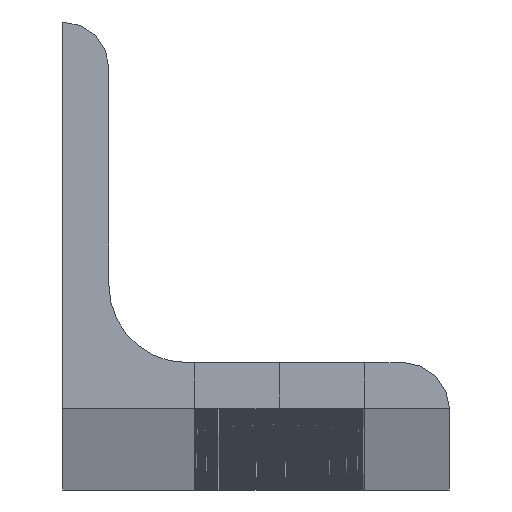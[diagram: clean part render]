
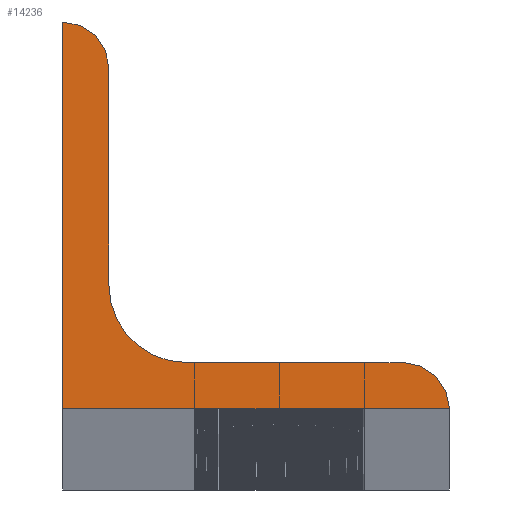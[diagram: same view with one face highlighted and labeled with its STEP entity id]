
A CAD part, top view. The second image highlights one B-rep face of the part: STEP entity #14236.
In plain terms, the highlighted planar face has unit normal (0, 0, 1).
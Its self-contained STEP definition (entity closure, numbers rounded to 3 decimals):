
#146 = EDGE_CURVE ( 'NONE', #10004, #3110, #14325, .T. ) ;
#270 = CIRCLE ( 'NONE', #7634, 3. ) ;
#863 = CARTESIAN_POINT ( 'NONE',  ( 22., 3., 3000. ) ) ;
#957 = CARTESIAN_POINT ( 'NONE',  ( 25., 0., 3000. ) ) ;
#1118 = DIRECTION ( 'NONE',  ( 0., 0., 1. ) ) ;
#1764 = VERTEX_POINT ( 'NONE', #2069 ) ;
#2069 = CARTESIAN_POINT ( 'NONE',  ( 22., 3., 3000. ) ) ;
#2153 = DIRECTION ( 'NONE',  ( 1., 0., 0. ) ) ;
#2805 = ORIENTED_EDGE ( 'NONE', *, *, #13696, .T. ) ;
#2883 = CARTESIAN_POINT ( 'NONE',  ( 3., 8., 3000. ) ) ;
#3005 = ORIENTED_EDGE ( 'NONE', *, *, #8286, .T. ) ;
#3110 = VERTEX_POINT ( 'NONE', #9844 ) ;
#3162 = VECTOR ( 'NONE', #12501, 1000. ) ;
#3225 = AXIS2_PLACEMENT_3D ( 'NONE', #7414, #11875, #8597 ) ;
#3494 = LINE ( 'NONE', #12640, #4609 ) ;
#3563 = DIRECTION ( 'NONE',  ( 0., -1., 0. ) ) ;
#3618 = CARTESIAN_POINT ( 'NONE',  ( 8., 3., 3000. ) ) ;
#4027 = PLANE ( 'NONE',  #3225 ) ;
#4089 = CARTESIAN_POINT ( 'NONE',  ( 0., 22., 3000. ) ) ;
#4304 = DIRECTION ( 'NONE',  ( 0., 0., 1. ) ) ;
#4436 = CARTESIAN_POINT ( 'NONE',  ( 0., 25., 3000. ) ) ;
#4609 = VECTOR ( 'NONE', #3563, 1000. ) ;
#5254 = DIRECTION ( 'NONE',  ( -1., 0., 0. ) ) ;
#5574 = ORIENTED_EDGE ( 'NONE', *, *, #12147, .T. ) ;
#5765 = VECTOR ( 'NONE', #13217, 1000. ) ;
#6045 = ORIENTED_EDGE ( 'NONE', *, *, #10546, .T. ) ;
#6212 = VERTEX_POINT ( 'NONE', #12260 ) ;
#6264 = LINE ( 'NONE', #2883, #5765 ) ;
#6458 = CARTESIAN_POINT ( 'NONE',  ( 22., 0., 3000. ) ) ;
#6667 = DIRECTION ( 'NONE',  ( 1., 0., 0. ) ) ;
#6887 = EDGE_CURVE ( 'NONE', #6212, #11327, #13577, .T. ) ;
#7043 = CARTESIAN_POINT ( 'NONE',  ( 0., 0., 3000. ) ) ;
#7414 = CARTESIAN_POINT ( 'NONE',  ( 0., 22., 3000. ) ) ;
#7554 = DIRECTION ( 'NONE',  ( 0., 0., -1. ) ) ;
#7634 = AXIS2_PLACEMENT_3D ( 'NONE', #6458, #1118, #6667 ) ;
#7804 = ORIENTED_EDGE ( 'NONE', *, *, #9025, .T. ) ;
#8180 = VERTEX_POINT ( 'NONE', #4436 ) ;
#8286 = EDGE_CURVE ( 'NONE', #8180, #6212, #3494, .T. ) ;
#8597 = DIRECTION ( 'NONE',  ( 1., 0., 0. ) ) ;
#8948 = LINE ( 'NONE', #863, #11839 ) ;
#9025 = EDGE_CURVE ( 'NONE', #1764, #10004, #8948, .T. ) ;
#9844 = CARTESIAN_POINT ( 'NONE',  ( 3., 8., 3000. ) ) ;
#9945 = AXIS2_PLACEMENT_3D ( 'NONE', #9997, #7554, #12013 ) ;
#9997 = CARTESIAN_POINT ( 'NONE',  ( 8., 8., 3000. ) ) ;
#10004 = VERTEX_POINT ( 'NONE', #3618 ) ;
#10131 = AXIS2_PLACEMENT_3D ( 'NONE', #4089, #4304, #2153 ) ;
#10546 = EDGE_CURVE ( 'NONE', #14263, #8180, #11299, .T. ) ;
#10643 = CARTESIAN_POINT ( 'NONE',  ( 3., 22., 3000. ) ) ;
#11255 = ORIENTED_EDGE ( 'NONE', *, *, #6887, .T. ) ;
#11299 = CIRCLE ( 'NONE', #10131, 3. ) ;
#11327 = VERTEX_POINT ( 'NONE', #957 ) ;
#11839 = VECTOR ( 'NONE', #5254, 1000. ) ;
#11875 = DIRECTION ( 'NONE',  ( 0., 0., 1. ) ) ;
#12013 = DIRECTION ( 'NONE',  ( -1., 0., 0. ) ) ;
#12147 = EDGE_CURVE ( 'NONE', #3110, #14263, #6264, .T. ) ;
#12260 = CARTESIAN_POINT ( 'NONE',  ( 0., 0., 3000. ) ) ;
#12501 = DIRECTION ( 'NONE',  ( 1., 0., 0. ) ) ;
#12640 = CARTESIAN_POINT ( 'NONE',  ( 0., 25., 3000. ) ) ;
#12818 = FACE_OUTER_BOUND ( 'NONE', #13177, .T. ) ;
#13177 = EDGE_LOOP ( 'NONE', ( #6045, #3005, #11255, #2805, #7804, #14133, #5574 ) ) ;
#13217 = DIRECTION ( 'NONE',  ( 0., 1., 0. ) ) ;
#13577 = LINE ( 'NONE', #7043, #3162 ) ;
#13696 = EDGE_CURVE ( 'NONE', #11327, #1764, #270, .T. ) ;
#14133 = ORIENTED_EDGE ( 'NONE', *, *, #146, .T. ) ;
#14236 = ADVANCED_FACE ( 'NONE', ( #12818 ), #4027, .T. ) ;
#14263 = VERTEX_POINT ( 'NONE', #10643 ) ;
#14325 = CIRCLE ( 'NONE', #9945, 5. ) ;
